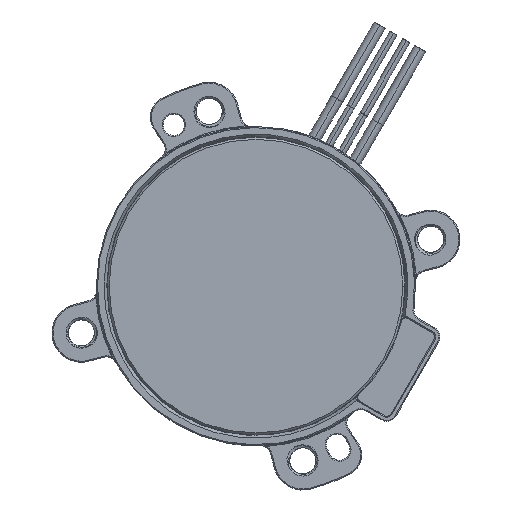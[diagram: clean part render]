
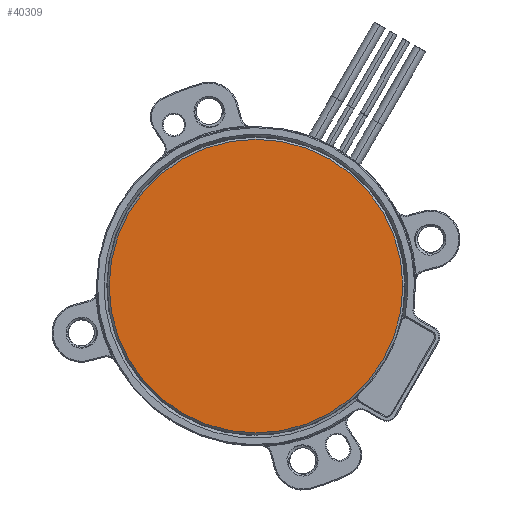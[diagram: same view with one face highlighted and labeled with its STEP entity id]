
A CAD part, front view. The second image highlights one B-rep face of the part: STEP entity #40309.
In plain terms, the highlighted planar face has unit normal (0, -1, 0) as drawn and (0, 1, 0) by its records, which use the part's own axes.
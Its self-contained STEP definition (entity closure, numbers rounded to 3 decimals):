
#39972=CARTESIAN_POINT('',(0.,2.35,0.));
#39973=DIRECTION('',(0.,-1.,0.));
#39974=DIRECTION('',(-1.,0.,0.));
#39975=AXIS2_PLACEMENT_3D('',#39972,#39973,#39974);
#39977=CARTESIAN_POINT('',(0.,2.35,0.));
#39978=DIRECTION('',(0.,-1.,0.));
#39979=DIRECTION('',(0.,0.,-1.));
#39980=AXIS2_PLACEMENT_3D('',#39977,#39978,#39979);
#39982=CARTESIAN_POINT('',(0.,2.35,0.));
#39983=DIRECTION('',(0.,-1.,0.));
#39984=DIRECTION('',(1.,0.,0.));
#39985=AXIS2_PLACEMENT_3D('',#39982,#39983,#39984);
#39987=CARTESIAN_POINT('',(0.,2.35,0.));
#39988=DIRECTION('',(0.,-1.,0.));
#39989=DIRECTION('',(0.,0.,1.));
#39990=AXIS2_PLACEMENT_3D('',#39987,#39988,#39989);
#40048=CARTESIAN_POINT('',(13.8,2.35,0.));
#40049=VERTEX_POINT('',#40048);
#40050=CARTESIAN_POINT('',(-13.8,2.35,0.));
#40051=CARTESIAN_POINT('',(0.,2.35,-13.8));
#40052=VERTEX_POINT('',#40050);
#40053=VERTEX_POINT('',#40051);
#40054=CARTESIAN_POINT('',(0.,2.35,13.8));
#40055=VERTEX_POINT('',#40054);
#40298=CARTESIAN_POINT('',(0.,2.35,0.));
#40299=DIRECTION('',(0.,-1.,0.));
#40300=DIRECTION('',(-1.,0.,0.));
#40301=AXIS2_PLACEMENT_3D('',#40298,#40299,#40300);
#40302=PLANE('',#40301);
#40303=ORIENTED_EDGE('',*,*,#40275,.T.);
#40304=ORIENTED_EDGE('',*,*,#40273,.T.);
#40305=ORIENTED_EDGE('',*,*,#40292,.T.);
#40306=ORIENTED_EDGE('',*,*,#40290,.T.);
#40307=EDGE_LOOP('',(#40303,#40304,#40305,#40306));
#40308=FACE_OUTER_BOUND('',#40307,.F.);
#40309=ADVANCED_FACE('',(#40308),#40302,.F.);
#39976=CIRCLE('',#39975,13.8);
#39981=CIRCLE('',#39980,13.8);
#39986=CIRCLE('',#39985,13.8);
#39991=CIRCLE('',#39990,13.8);
#40273=EDGE_CURVE('',#40053,#40049,#39981,.T.);
#40275=EDGE_CURVE('',#40052,#40053,#39976,.T.);
#40290=EDGE_CURVE('',#40055,#40052,#39991,.T.);
#40292=EDGE_CURVE('',#40049,#40055,#39986,.T.);
